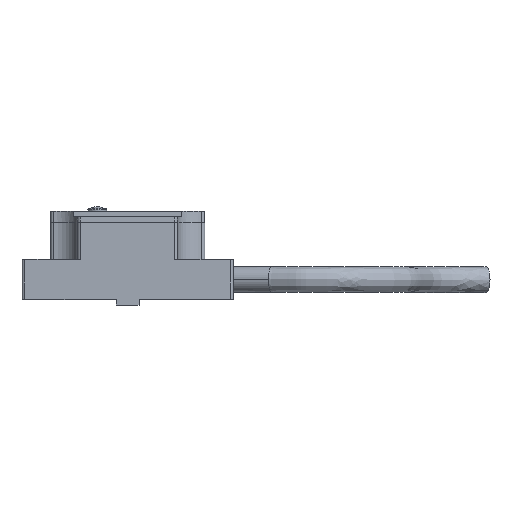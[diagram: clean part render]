
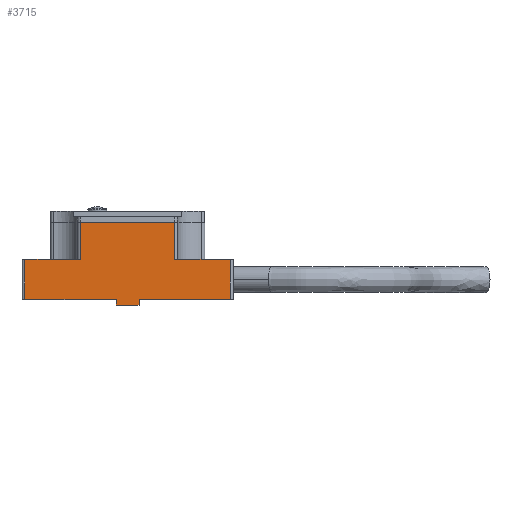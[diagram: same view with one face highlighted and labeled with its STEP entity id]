
A CAD part, top view. The second image highlights one B-rep face of the part: STEP entity #3715.
In plain terms, the highlighted planar face has unit normal (0, 0, 1).
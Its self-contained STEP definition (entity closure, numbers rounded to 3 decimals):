
#1 = VECTOR ( 'NONE', #3667, 1000. ) ;
#344 = CARTESIAN_POINT ( 'NONE',  ( 2., 0., 15.5 ) ) ;
#379 = DIRECTION ( 'NONE',  ( 1., 0., 0. ) ) ;
#386 = ORIENTED_EDGE ( 'NONE', *, *, #8440, .T. ) ;
#415 = AXIS2_PLACEMENT_3D ( 'NONE', #2830, #763, #2201 ) ;
#451 = CARTESIAN_POINT ( 'NONE',  ( 18., 0., 15.5 ) ) ;
#466 = CARTESIAN_POINT ( 'NONE',  ( 2., -1., 15.5 ) ) ;
#533 = CARTESIAN_POINT ( 'NONE',  ( -8.25, 13.5, 15.5 ) ) ;
#560 = LINE ( 'NONE', #7979, #4288 ) ;
#643 = VERTEX_POINT ( 'NONE', #6422 ) ;
#763 = DIRECTION ( 'NONE',  ( 0., 0., -1. ) ) ;
#932 = VERTEX_POINT ( 'NONE', #6409 ) ;
#965 = ORIENTED_EDGE ( 'NONE', *, *, #3126, .T. ) ;
#1101 = VECTOR ( 'NONE', #7995, 1000. ) ;
#1155 = VERTEX_POINT ( 'NONE', #2926 ) ;
#1162 = VERTEX_POINT ( 'NONE', #344 ) ;
#1277 = EDGE_CURVE ( 'NONE', #8036, #6941, #1607, .T. ) ;
#1372 = ORIENTED_EDGE ( 'NONE', *, *, #2897, .T. ) ;
#1605 = VECTOR ( 'NONE', #7030, 1000. ) ;
#1607 = LINE ( 'NONE', #1775, #1605 ) ;
#1775 = CARTESIAN_POINT ( 'NONE',  ( -18., 0., 15.5 ) ) ;
#1976 = VERTEX_POINT ( 'NONE', #4104 ) ;
#2142 = VERTEX_POINT ( 'NONE', #4375 ) ;
#2201 = DIRECTION ( 'NONE',  ( -1., 0., 0. ) ) ;
#2266 = CARTESIAN_POINT ( 'NONE',  ( -8.25, 7., 15.5 ) ) ;
#2410 = DIRECTION ( 'NONE',  ( 0., 1., 0. ) ) ;
#2448 = CARTESIAN_POINT ( 'NONE',  ( 8.75, 7., 15.5 ) ) ;
#2514 = ORIENTED_EDGE ( 'NONE', *, *, #3166, .T. ) ;
#2647 = VECTOR ( 'NONE', #379, 1000. ) ;
#2830 = CARTESIAN_POINT ( 'NONE',  ( 0., 0., 15.5 ) ) ;
#2897 = EDGE_CURVE ( 'NONE', #7114, #1976, #6826, .T. ) ;
#2926 = CARTESIAN_POINT ( 'NONE',  ( 18., 7., 15.5 ) ) ;
#3074 = LINE ( 'NONE', #2448, #3923 ) ;
#3080 = LINE ( 'NONE', #3744, #4507 ) ;
#3126 = EDGE_CURVE ( 'NONE', #643, #932, #3080, .T. ) ;
#3164 = CARTESIAN_POINT ( 'NONE',  ( -8.25, 7., 15.5 ) ) ;
#3166 = EDGE_CURVE ( 'NONE', #932, #3830, #6129, .T. ) ;
#3323 = DIRECTION ( 'NONE',  ( 0., -1., 0. ) ) ;
#3374 = EDGE_CURVE ( 'NONE', #1162, #3808, #8463, .T. ) ;
#3387 = EDGE_CURVE ( 'NONE', #1976, #1162, #7177, .T. ) ;
#3468 = CARTESIAN_POINT ( 'NONE',  ( -2., -1., 15.5 ) ) ;
#3667 = DIRECTION ( 'NONE',  ( 0., 1., 0. ) ) ;
#3715 = ADVANCED_FACE ( 'NONE', ( #5582 ), #4763, .F. ) ;
#3744 = CARTESIAN_POINT ( 'NONE',  ( 8.25, 13.5, 15.5 ) ) ;
#3808 = VERTEX_POINT ( 'NONE', #451 ) ;
#3830 = VERTEX_POINT ( 'NONE', #533 ) ;
#3923 = VECTOR ( 'NONE', #6507, 1000. ) ;
#3949 = VECTOR ( 'NONE', #7455, 1000. ) ;
#4104 = CARTESIAN_POINT ( 'NONE',  ( 2., -1., 15.5 ) ) ;
#4125 = CARTESIAN_POINT ( 'NONE',  ( -2., 0., 15.5 ) ) ;
#4228 = DIRECTION ( 'NONE',  ( 0., -1., 0. ) ) ;
#4288 = VECTOR ( 'NONE', #3323, 1000. ) ;
#4315 = LINE ( 'NONE', #2266, #8166 ) ;
#4375 = CARTESIAN_POINT ( 'NONE',  ( -2., 0., 15.5 ) ) ;
#4459 = ORIENTED_EDGE ( 'NONE', *, *, #3374, .T. ) ;
#4507 = VECTOR ( 'NONE', #2410, 1000. ) ;
#4580 = EDGE_CURVE ( 'NONE', #3808, #1155, #6476, .T. ) ;
#4763 = PLANE ( 'NONE',  #415 ) ;
#4773 = VECTOR ( 'NONE', #6113, 1000. ) ;
#4781 = VECTOR ( 'NONE', #5899, 1000. ) ;
#4852 = ORIENTED_EDGE ( 'NONE', *, *, #5206, .T. ) ;
#4861 = LINE ( 'NONE', #4125, #3949 ) ;
#5143 = CARTESIAN_POINT ( 'NONE',  ( -18., 0., 15.5 ) ) ;
#5206 = EDGE_CURVE ( 'NONE', #2142, #7114, #560, .T. ) ;
#5294 = EDGE_LOOP ( 'NONE', ( #6769, #4852, #1372, #7852, #4459, #6214, #386, #965, #2514, #7977, #5581, #7437 ) ) ;
#5436 = CARTESIAN_POINT ( 'NONE',  ( -18.5, 7., 15.5 ) ) ;
#5581 = ORIENTED_EDGE ( 'NONE', *, *, #8651, .T. ) ;
#5582 = FACE_OUTER_BOUND ( 'NONE', #5294, .T. ) ;
#5899 = DIRECTION ( 'NONE',  ( 0., 1., 0. ) ) ;
#5929 = LINE ( 'NONE', #5436, #1101 ) ;
#6113 = DIRECTION ( 'NONE',  ( 1., 0., 0. ) ) ;
#6129 = LINE ( 'NONE', #7540, #8004 ) ;
#6214 = ORIENTED_EDGE ( 'NONE', *, *, #4580, .T. ) ;
#6409 = CARTESIAN_POINT ( 'NONE',  ( 8.25, 13.5, 15.5 ) ) ;
#6422 = CARTESIAN_POINT ( 'NONE',  ( 8.25, 7., 15.5 ) ) ;
#6476 = LINE ( 'NONE', #7052, #4781 ) ;
#6507 = DIRECTION ( 'NONE',  ( -1., 0., 0. ) ) ;
#6619 = EDGE_CURVE ( 'NONE', #6941, #2142, #4861, .T. ) ;
#6769 = ORIENTED_EDGE ( 'NONE', *, *, #6619, .T. ) ;
#6826 = LINE ( 'NONE', #7656, #4773 ) ;
#6941 = VERTEX_POINT ( 'NONE', #5143 ) ;
#7030 = DIRECTION ( 'NONE',  ( 0., -1., 0. ) ) ;
#7052 = CARTESIAN_POINT ( 'NONE',  ( 18., 7., 15.5 ) ) ;
#7114 = VERTEX_POINT ( 'NONE', #3468 ) ;
#7131 = EDGE_CURVE ( 'NONE', #3830, #8529, #4315, .T. ) ;
#7177 = LINE ( 'NONE', #466, #1 ) ;
#7437 = ORIENTED_EDGE ( 'NONE', *, *, #1277, .T. ) ;
#7455 = DIRECTION ( 'NONE',  ( 1., 0., 0. ) ) ;
#7540 = CARTESIAN_POINT ( 'NONE',  ( -8.75, 13.5, 15.5 ) ) ;
#7656 = CARTESIAN_POINT ( 'NONE',  ( -2., -1., 15.5 ) ) ;
#7852 = ORIENTED_EDGE ( 'NONE', *, *, #3387, .T. ) ;
#7977 = ORIENTED_EDGE ( 'NONE', *, *, #7131, .T. ) ;
#7979 = CARTESIAN_POINT ( 'NONE',  ( -2., 0., 15.5 ) ) ;
#7995 = DIRECTION ( 'NONE',  ( -1., 0., 0. ) ) ;
#8004 = VECTOR ( 'NONE', #8192, 1000. ) ;
#8036 = VERTEX_POINT ( 'NONE', #8268 ) ;
#8166 = VECTOR ( 'NONE', #4228, 1000. ) ;
#8192 = DIRECTION ( 'NONE',  ( -1., 0., 0. ) ) ;
#8268 = CARTESIAN_POINT ( 'NONE',  ( -18., 7., 15.5 ) ) ;
#8368 = CARTESIAN_POINT ( 'NONE',  ( 18.5, 0., 15.5 ) ) ;
#8440 = EDGE_CURVE ( 'NONE', #1155, #643, #3074, .T. ) ;
#8463 = LINE ( 'NONE', #8368, #2647 ) ;
#8529 = VERTEX_POINT ( 'NONE', #3164 ) ;
#8651 = EDGE_CURVE ( 'NONE', #8529, #8036, #5929, .T. ) ;
